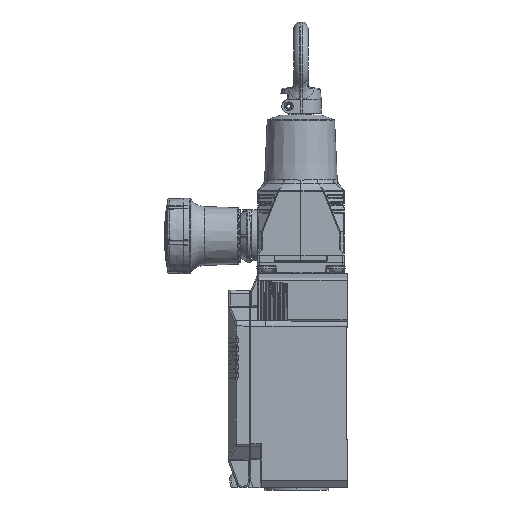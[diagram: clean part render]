
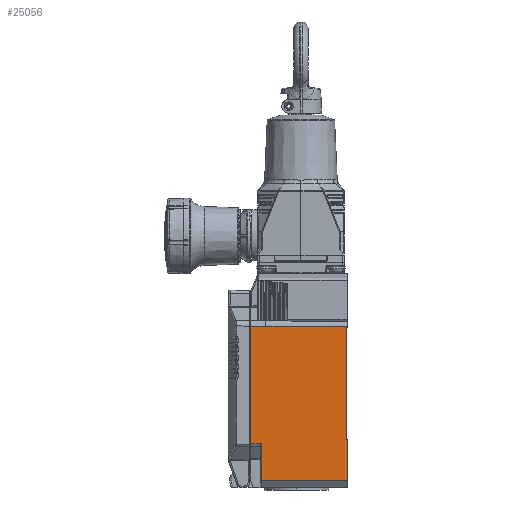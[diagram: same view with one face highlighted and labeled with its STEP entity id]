
A CAD part, left-side view. The second image highlights one B-rep face of the part: STEP entity #25056.
In plain terms, the highlighted planar face has unit normal (-1, 0, 0).
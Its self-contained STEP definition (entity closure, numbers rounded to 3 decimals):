
#78=DIRECTION('',(0.,0.,1.));
#79=VECTOR('',#78,14.096);
#80=CARTESIAN_POINT('',(-21.,-16.,-70.925));
#81=LINE('',#80,#79);
#426=CARTESIAN_POINT('',(-21.,17.217,-18.049));
#431=DIRECTION('',(0.,0.,-1.));
#432=VECTOR('',#431,40.326);
#433=CARTESIAN_POINT('',(-21.,17.217,-18.049));
#434=LINE('',#433,#432);
#804=DIRECTION('',(0.,0.,1.));
#805=VECTOR('',#804,0.047);
#806=CARTESIAN_POINT('',(-21.,-16.,-18.312));
#807=LINE('',#806,#805);
#8953=DIRECTION('',(0.,0.,1.));
#8954=VECTOR('',#8953,38.509);
#8955=CARTESIAN_POINT('',(-21.,-15.5,-56.825));
#8956=LINE('',#8955,#8954);
#8974=DIRECTION('',(0.,1.,0.009));
#8975=VECTOR('',#8974,0.5);
#8976=CARTESIAN_POINT('',(-21.,-16.,-56.829));
#8977=LINE('',#8976,#8975);
#8981=DIRECTION('',(0.,1.,-0.009));
#8982=VECTOR('',#8981,0.5);
#8983=CARTESIAN_POINT('',(-21.,-16.,-18.312));
#8984=LINE('',#8983,#8982);
#8988=DIRECTION('',(0.,1.,0.));
#8989=VECTOR('',#8988,29.6);
#8990=CARTESIAN_POINT('',(-21.,-16.,-70.925));
#8991=LINE('',#8990,#8989);
#9009=CARTESIAN_POINT('',(-21.,12.,
-17.999));
#9010=CARTESIAN_POINT('',(-21.,12.579,
-18.005));
#9011=CARTESIAN_POINT('',(-21.,13.738,
-18.016));
#9012=CARTESIAN_POINT('',(-21.,15.477,
-18.033));
#9013=CARTESIAN_POINT('',(-21.,16.637,
-18.044));
#9014=CARTESIAN_POINT('',(-21.,17.217,
-18.049));
#9019=CARTESIAN_POINT('',(-21.,-16.,
-18.265));
#9020=CARTESIAN_POINT('',(-21.,-12.877,
-18.236));
#9021=CARTESIAN_POINT('',(-21.,-6.64,
-18.176));
#9022=CARTESIAN_POINT('',(-21.,2.694,
-18.088));
#9023=CARTESIAN_POINT('',(-21.,8.9,
-18.029));
#9024=CARTESIAN_POINT('',(-21.,12.,
-17.999));
#12284=DIRECTION('',(0.,0.,-1.));
#12285=VECTOR('',#12284,12.55);
#12286=CARTESIAN_POINT('',(-21.,13.6,-58.375));
#12287=LINE('',#12286,#12285);
#12302=DIRECTION('',(0.,-1.,0.));
#12303=VECTOR('',#12302,3.617);
#12304=CARTESIAN_POINT('',(-21.,17.217,-58.375));
#12305=LINE('',#12304,#12303);
#19332=CARTESIAN_POINT('',(-21.,-16.,-70.925));
#19334=VERTEX_POINT('',#19332);
#19335=CARTESIAN_POINT('',(-21.,-16.,-56.829));
#19336=VERTEX_POINT('',#19335);
#19486=CARTESIAN_POINT('',(-21.,-16.,-18.312));
#19487=VERTEX_POINT('',#19486);
#19488=CARTESIAN_POINT('',(-21.,-16.,
-18.265));
#19489=VERTEX_POINT('',#19488);
#19491=CARTESIAN_POINT('',(-21.,13.6,-70.925));
#19493=VERTEX_POINT('',#19491);
#19584=VERTEX_POINT('',#426);
#19585=CARTESIAN_POINT('',(-21.,17.217,-58.375));
#19586=VERTEX_POINT('',#19585);
#19721=CARTESIAN_POINT('',(-21.,13.6,-58.375));
#19722=VERTEX_POINT('',#19721);
#19723=VERTEX_POINT('',#9009);
#19724=CARTESIAN_POINT('',(-21.,-15.5,-18.316));
#19725=VERTEX_POINT('',#19724);
#19726=CARTESIAN_POINT('',(-21.,-15.5,-56.825));
#19727=VERTEX_POINT('',#19726);
#25033=CARTESIAN_POINT('',(-21.,-16.,-73.425));
#25034=DIRECTION('',(-1.,0.,0.));
#25035=DIRECTION('',(0.,0.,1.));
#25036=AXIS2_PLACEMENT_3D('',#25033,#25034,#25035);
#25037=PLANE('',#25036);
#25038=ORIENTED_EDGE('',*,*,#20530,.F.);
#25040=ORIENTED_EDGE('',*,*,#25039,.F.);
#25042=ORIENTED_EDGE('',*,*,#25041,.F.);
#25043=ORIENTED_EDGE('',*,*,#20886,.F.);
#25045=ORIENTED_EDGE('',*,*,#25044,.T.);
#25046=ORIENTED_EDGE('',*,*,#24998,.F.);
#25047=ORIENTED_EDGE('',*,*,#25021,.F.);
#25048=ORIENTED_EDGE('',*,*,#20323,.F.);
#25049=ORIENTED_EDGE('',*,*,#20384,.T.);
#25051=ORIENTED_EDGE('',*,*,#25050,.F.);
#25053=ORIENTED_EDGE('',*,*,#25052,.F.);
#25054=EDGE_LOOP('',(#25038,#25040,#25042,#25043,#25045,#25046,#25047,#25048,
#25049,#25051,#25053));
#25055=FACE_OUTER_BOUND('',#25054,.F.);
#9015=B_SPLINE_CURVE_WITH_KNOTS('',3,(#9009,#9010,#9011,#9012,#9013,#9014),
.UNSPECIFIED.,.F.,.F.,(4,1,1,4),(0.,0.333,0.667,1.),
.UNSPECIFIED.);
#9025=B_SPLINE_CURVE_WITH_KNOTS('',3,(#9019,#9020,#9021,#9022,#9023,#9024),
.UNSPECIFIED.,.F.,.F.,(4,1,1,4),(0.,0.333,0.667,1.),
.UNSPECIFIED.);
#20323=EDGE_CURVE('',#19334,#19336,#81,.T.);
#20384=EDGE_CURVE('',#19334,#19493,#8991,.T.);
#20530=EDGE_CURVE('',#19584,#19586,#434,.T.);
#20886=EDGE_CURVE('',#19487,#19489,#807,.T.);
#24998=EDGE_CURVE('',#19727,#19725,#8956,.T.);
#25021=EDGE_CURVE('',#19336,#19727,#8977,.T.);
#25039=EDGE_CURVE('',#19723,#19584,#9015,.T.);
#25041=EDGE_CURVE('',#19489,#19723,#9025,.T.);
#25044=EDGE_CURVE('',#19487,#19725,#8984,.T.);
#25050=EDGE_CURVE('',#19722,#19493,#12287,.T.);
#25052=EDGE_CURVE('',#19586,#19722,#12305,.T.);
#25056=ADVANCED_FACE('',(#25055),#25037,.T.);
